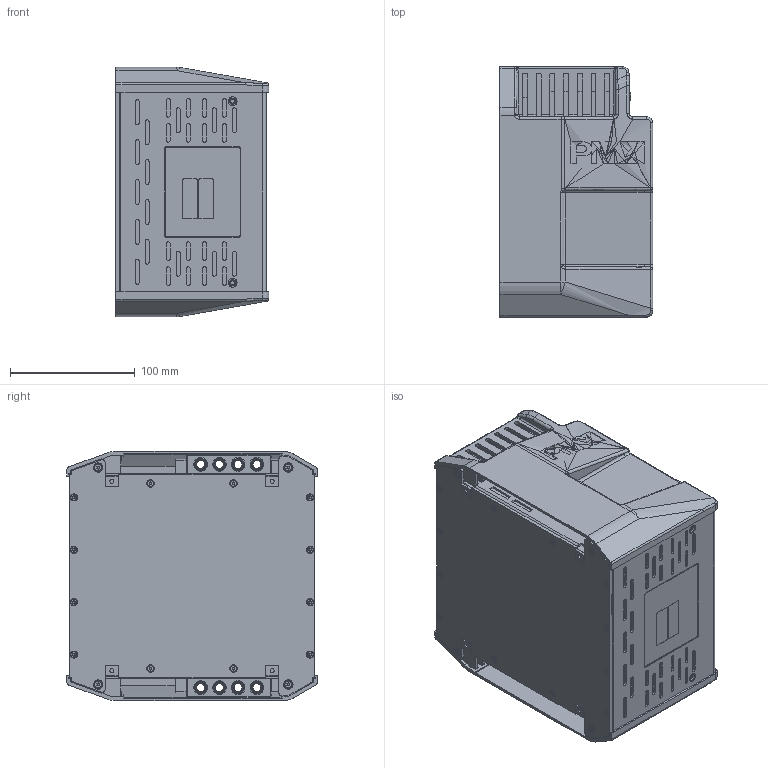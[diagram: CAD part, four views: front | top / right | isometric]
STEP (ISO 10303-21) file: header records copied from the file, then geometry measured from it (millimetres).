
FILE_DESCRIPTION((''),'2;1');
FILE_NAME('1_WGX002_STEP_ASM','2018-10-10T',('mellertr'),(''),'CREO PARAMETRIC BY PTC INC, 2017480','CREO PARAMETRIC BY PTC INC, 2017480','');
FILE_SCHEMA(('CONFIG_CONTROL_DESIGN'));
Products named in the file (5): 1_WGX002_STEP_SW0002; 3_6440_0167_PMX_DESIGNEL_LE; 3_6440_0167_PMX_DESIGNEL_RE; 1_PMX_DESIGNELEMENTE_STEP_ASM; 1_WGX002_STEP_ASM
Assembly tree (4 placements, depth 3):
  1_WGX002_STEP_ASM
    1_WGX002_STEP_SW0002
    1_PMX_DESIGNELEMENTE_STEP_ASM
      3_6440_0167_PMX_DESIGNEL_LE
      3_6440_0167_PMX_DESIGNEL_RE
Bounding box: 123.06 x 200.5 x 200 mm (x, y, z)
Volume: 2293445.9 mm3; surface area: 366440.6 mm2
Topology: 3 solids, 4 shells, 3899 faces, 10132 edges, 6480 vertices
Faces by surface type: bspline 3899
Entity records: 177829 total; most frequent: CARTESIAN_POINT 68576, ORIENTED_EDGE 20264, DIRECTION 12632, EDGE_CURVE 10132, VECTOR 6594, LINE 6594, VERTEX_POINT 6481, PRESENTATION_STYLE_ASSIGNMENT 5251
